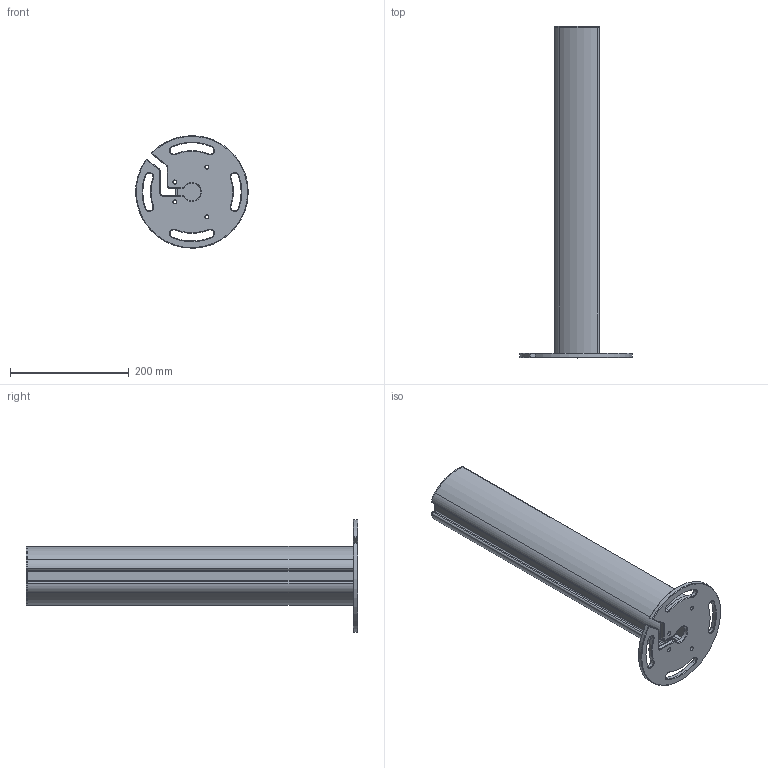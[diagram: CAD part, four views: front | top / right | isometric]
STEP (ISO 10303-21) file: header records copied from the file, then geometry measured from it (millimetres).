
FILE_DESCRIPTION((''),'2;1');
FILE_NAME('ESQC_ASM','2022-07-19T12:08:55',('18822879468'),(''),'CREO PARAMETRIC BY PTC INC, 2019010','CREO PARAMETRIC BY PTC INC, 2019010','');
FILE_SCHEMA(('CONFIG_CONTROL_DESIGN'));
Length unit declared in the file: millimetre
Products named in the file (5): 00; _-0001; _-0002; 000; ESQC_ASM
Assembly tree (4 placements, depth 2):
  ESQC_ASM
    00
    _-0001
    _-0002
    000
Bounding box: 189.81 x 560 x 189.85 mm (x, y, z)
Volume: 929584 mm3; surface area: 473415 mm2
Topology: 4 solids, 4 shells, 239 faces, 613 edges, 378 vertices
Faces by surface type: cylinder 98, plane 73, cone 68
Entity records: 7388 total; most frequent: DIRECTION 1365, CARTESIAN_POINT 1235, ORIENTED_EDGE 1218, EDGE_CURVE 609, AXIS2_PLACEMENT_3D 508, VERTEX_POINT 378, VECTOR 349, LINE 349
